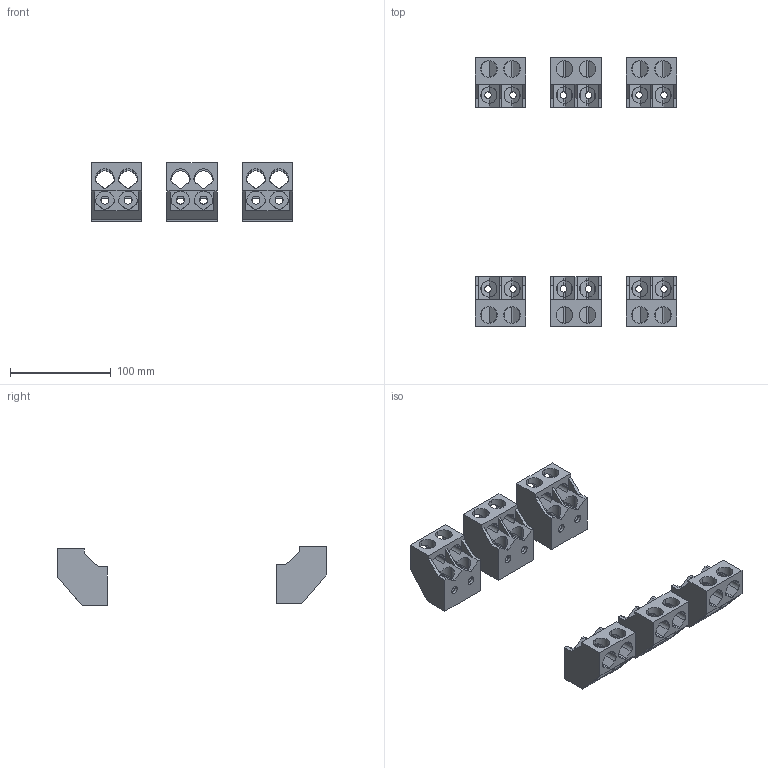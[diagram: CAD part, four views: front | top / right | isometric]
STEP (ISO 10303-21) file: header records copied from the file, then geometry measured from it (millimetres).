
FILE_DESCRIPTION (( 'STEP AP214' ), '1' );
FILE_NAME ('ÂÀ57-39 êîìïëåêò çàæèìîâ 4x120 (êîëîäêà) (2).STEP', '2023-08-07T13:09:39', ( '' ), ( '' ), 'SwSTEP 2.0', 'SolidWorks 2018', '' );
FILE_SCHEMA (( 'AUTOMOTIVE_DESIGN' ));
Length unit declared in the file: millimetre
Products named in the file (1): ÂÀ57-39 êîìïëåêò çàæèìîâ 4x120 (êîëîäêà) (2)
Bounding box: 200 x 266.4 x 58 mm (x, y, z)
Volume: 326301.2 mm3; surface area: 123672.8 mm2
Topology: 6 solids, 6 shells, 492 faces, 1512 edges, 984 vertices
Faces by surface type: cylinder 252, plane 240
Entity records: 25271 total; most frequent: CARTESIAN_POINT 6205, ORIENTED_EDGE 3024, DIRECTION 2678, EDGE_CURVE 1512, VERTEX_POINT 984, VECTOR 948, LINE 948, AXIS2_PLACEMENT_3D 865
